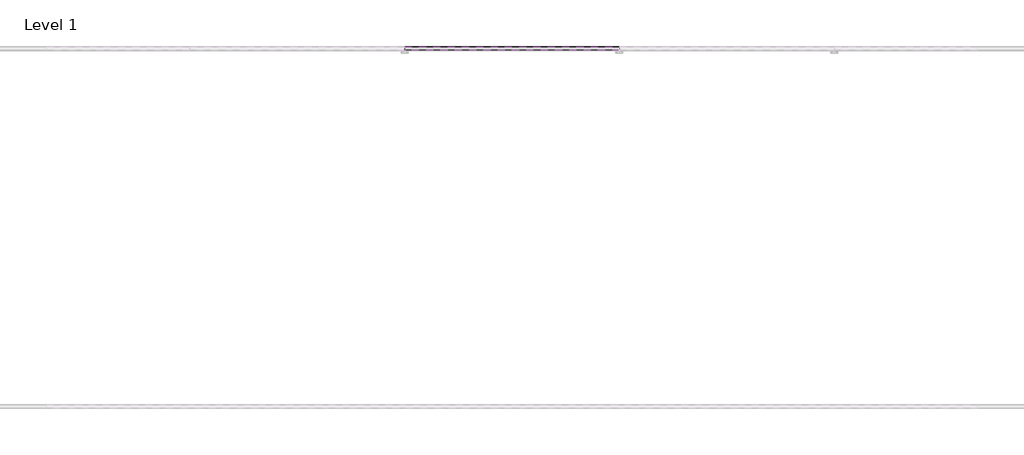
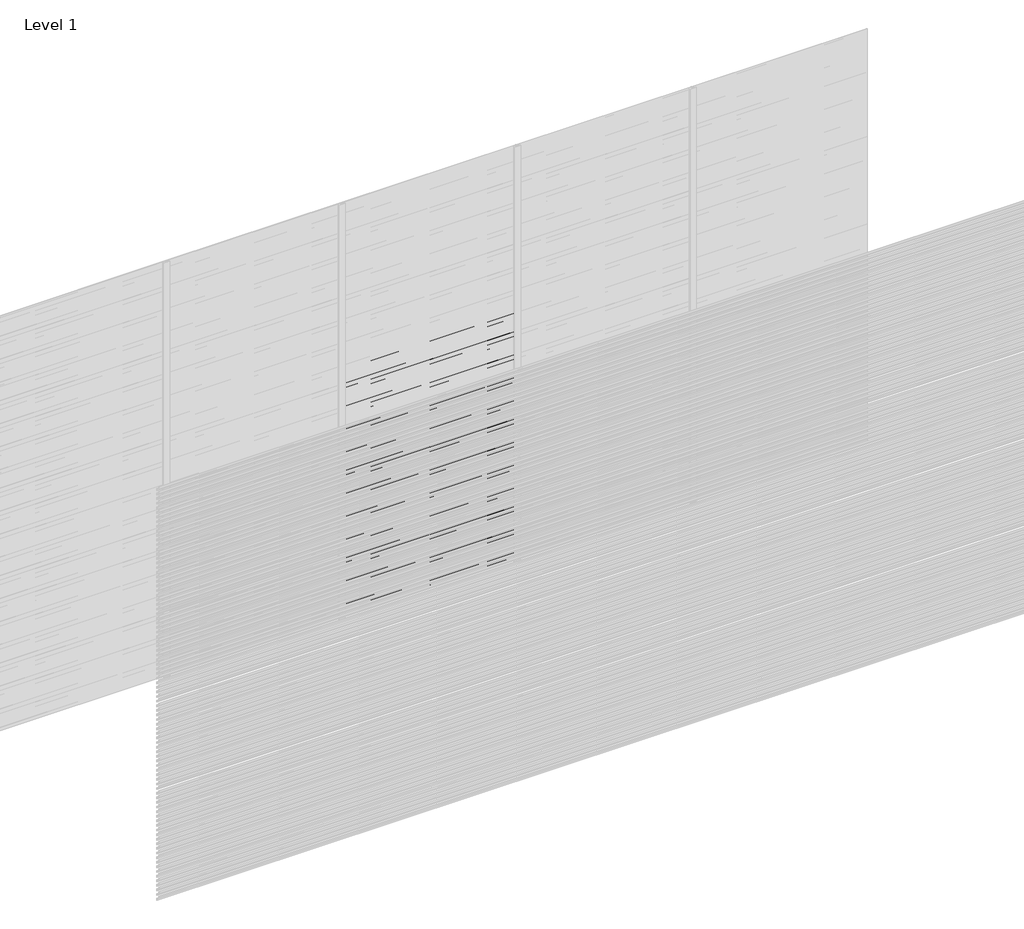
# One storey, part 57 of 507: 54 proxies.
"""IFC4 building model written with IfcOpenShell, lengths in millimetres."""

import ifcopenshell
import ifcopenshell.guid

model = None  # the IFC model being written
_history = None  # IfcOwnerHistory: only IFC2X3 demands one
_inside = {}  # id of a spatial element -> (the spatial element, [elements in it])
_under = {}  # id of a project, library or spatial element -> (it, [spatial elements below it])
_declared = {}  # id of a project -> (the project, [libraries it declares])
_typed = {}  # id of a type object -> (the type object, [elements of that type])
_made_of = {}  # id of a material, layer set ... -> (it, [elements and type objects made of it])


def new_model(schema):
    """Start an empty IFC model of exactly this schema.

    Asked for "IFC4X3", IfcOpenShell would pick the latest addendum, in which some entities
    have other attributes; the version numbers below select the first issue.
    IFC2X3 requires an IfcOwnerHistory on every rooted entity: one is made here for all.
    """
    global model, _history
    if schema == "IFC4X3":
        model = ifcopenshell.file(schema_version=(4, 3, 0, 0))
    else:
        model = ifcopenshell.file(schema=schema)
    _inside.clear()
    _under.clear()
    _declared.clear()
    _typed.clear()
    _made_of.clear()
    _history = None
    if model.schema == "IFC2X3":
        org = make("IfcOrganization", Name="unknown")
        user = make(
            "IfcPersonAndOrganization",
            ThePerson=make("IfcPerson", FamilyName="unknown"),
            TheOrganization=org,
        )
        app = make(
            "IfcApplication",
            ApplicationDeveloper=org,
            Version="unknown",
            ApplicationFullName="unknown",
            ApplicationIdentifier="unknown",
        )
        _history = make(
            "IfcOwnerHistory",
            OwningUser=user,
            OwningApplication=app,
            ChangeAction="ADDED",
            CreationDate=0,
        )
    return model


def make(cls, **values):
    """One entity of the class cls with the attributes given. An attribute that is None is left unset."""
    return model.create_entity(
        cls, **{name: value for name, value in values.items() if value is not None}
    )


def rooted(cls, **values):
    """An entity with a GlobalId (a new one), such as an element, a storey or a relation."""
    return make(cls, GlobalId=ifcopenshell.guid.new(), OwnerHistory=_history, **values)


def si_unit(unit_type, name, prefix=None):
    """IfcSIUnit, for example si_unit("LENGTHUNIT", "METRE", prefix="MILLI")."""
    return make("IfcSIUnit", UnitType=unit_type, Prefix=prefix, Name=name)


def assignment(units):
    """IfcUnitAssignment: the units of a project."""
    return None if units is None else make("IfcUnitAssignment", Units=units)


def point(xyz):
    """IfcCartesianPoint."""
    return None if xyz is None else make("IfcCartesianPoint", Coordinates=xyz)


def direction(xyz):
    """IfcDirection."""
    return None if xyz is None else make("IfcDirection", DirectionRatios=xyz)


def frame(location, z_axis=None, x_axis=None):
    """IfcAxis2Placement3D, a coordinate frame: its origin and axes. An axis left out is left unset."""
    return make(
        "IfcAxis2Placement3D",
        Location=point(location),
        Axis=direction(z_axis),
        RefDirection=direction(x_axis),
    )


def origin():
    """The frame at (0, 0, 0) with its axes left unset."""
    return frame((0.0, 0.0, 0.0))


def place(relative_to, where):
    """IfcLocalPlacement: puts the frame where relative to a parent placement (None: the world)."""
    return make(
        "IfcLocalPlacement", PlacementRelTo=relative_to, RelativePlacement=where
    )


def context(
    kind, dimensions, precision=None, world=None, true_north=None, identifier=None
):
    """IfcGeometricRepresentationContext, for example the 3D "Model" context."""
    return make(
        "IfcGeometricRepresentationContext",
        ContextIdentifier=identifier,
        ContextType=kind,
        CoordinateSpaceDimension=dimensions,
        Precision=precision,
        WorldCoordinateSystem=world,
        TrueNorth=true_north,
    )


def project(units=None, contexts=None):
    """IfcProject with its units and contexts."""
    return rooted(
        "IfcProject",
        Name="project",
        RepresentationContexts=contexts,
        UnitsInContext=assignment(units),
    )


def spatial(cls, under=None, at=None, **own):
    """A site, building, storey or space (cls), placed at a placement, below another one or the project."""
    s = rooted(cls, ObjectPlacement=at, **own)
    if under is not None:
        _under.setdefault(under.id(), (under, []))[1].append(s)
    return s


def polyline(points):
    """IfcPolyline through the points."""
    return make("IfcPolyline", Points=[point(p) for p in points])


def outline(outer, holes=None, kind="AREA"):
    """IfcArbitraryClosedProfileDef: a profile drawn as a closed curve; with holes, ...WithVoids."""
    if holes is None:
        return make("IfcArbitraryClosedProfileDef", ProfileType=kind, OuterCurve=outer)
    return make(
        "IfcArbitraryProfileDefWithVoids",
        ProfileType=kind,
        OuterCurve=outer,
        InnerCurves=holes,
    )


def extrude(swept, where, along, depth):
    """IfcExtrudedAreaSolid: the profile swept, set in the frame where, extruded along a direction by depth."""
    return make(
        "IfcExtrudedAreaSolid",
        SweptArea=swept,
        Position=where,
        ExtrudedDirection=direction(along),
        Depth=depth,
    )


def shape(context_of_items, identifier, shape_type, items):
    """IfcShapeRepresentation: the items that make up one representation, for example the "Body"."""
    return make(
        "IfcShapeRepresentation",
        ContextOfItems=context_of_items,
        RepresentationIdentifier=identifier,
        RepresentationType=shape_type,
        Items=items,
    )


def made_of(thing, what):
    """Note that an element or type object is made of a material, layer set ...; save() writes the relation."""
    if what is not None:
        _made_of.setdefault(what.id(), (what, []))[1].append(thing)
    return thing


def element(
    cls,
    number,
    at=None,
    inside=None,
    cuts=None,
    type_object=None,
    material=None,
    context=None,
    identifier="Body",
    shape_type=None,
    held_by="IfcProductDefinitionShape",
    body=None,
    shapes=None,
    **own,
):
    """One element of the class cls, such as IfcWall. Its Tag is "e" and its number.

    at: its placement. inside: the storey or other place that contains it. cuts: it is an
    opening in that element (IfcRelVoidsElement). A single representation is given by context,
    identifier, shape_type and body (its items); several are given by shapes. held_by: the class
    of the entity that holds the representations. save() writes the other relations.
    """
    e = rooted(cls, Tag="e%d" % number, ObjectPlacement=at, **own)
    if body is not None:
        shapes = [shape(context, identifier, shape_type, body)]
    if shapes is not None:
        e.Representation = make(held_by, Representations=shapes)
    if inside is not None:
        _inside.setdefault(inside.id(), (inside, []))[1].append(e)
    if cuts is not None:
        rooted(
            "IfcRelVoidsElement", RelatingBuildingElement=cuts, RelatedOpeningElement=e
        )
    if type_object is not None:
        _typed.setdefault(type_object.id(), (type_object, []))[1].append(e)
    return made_of(e, material)


def aggregate(whole, parts):
    """IfcRelAggregates: a whole, such as a stair, and the parts it consists of."""
    return rooted("IfcRelAggregates", RelatingObject=whole, RelatedObjects=parts)


def save(model, path):
    """Write the relations noted so far, then the file.

    IfcRelAggregates (storeys below a building ...), IfcRelContainedInSpatialStructure (elements
    in a storey), IfcRelDefinesByType, IfcRelAssociatesMaterial and IfcRelDeclares: one each for
    every whole, place, type object, material and project.
    """
    for whole, parts in _under.values():
        aggregate(whole, parts)
    for where, things in _inside.values():
        rooted(
            "IfcRelContainedInSpatialStructure",
            RelatedElements=things,
            RelatingStructure=where,
        )
    for kind, things in _typed.values():
        rooted("IfcRelDefinesByType", RelatedObjects=things, RelatingType=kind)
    for what, things in _made_of.values():
        rooted("IfcRelAssociatesMaterial", RelatedObjects=things, RelatingMaterial=what)
    for by, libraries in _declared.values():
        rooted("IfcRelDeclares", RelatingContext=by, RelatedDefinitions=libraries)
    model.write(path)


model = new_model("IFC4")

# Units and contexts
model_context = context("Model", 3, world=origin())
ifc_project = project(units=[si_unit("LENGTHUNIT", "METRE", prefix="MILLI")], contexts=[model_context])

# Site, building, storey
site = spatial("IfcSite", under=ifc_project)
building = spatial("IfcBuilding", under=site)
storey = spatial("IfcBuildingStorey", under=building, Name="Level 1", Elevation=0.0)

# Proxies
placement = place(None, origin())
element("IfcBuildingElementProxy", 1, Name="Wall Sweeps", at=placement, inside=storey, context=model_context, shape_type="SweptSolid", body=[
    extrude(outline(polyline([(44003.4540136, 1774.2), (44003.4540136, 1760.7), (44002.2040136, 1761.4216933), (44002.2040136, 1773.4782281), (43983.0540136, 1784.5345698), (43983.0540136, 1798.2), (43984.3040136, 1798.2), (43984.3040136, 1785.2562577), (44003.4540136, 1774.2)])), frame((47366.6208097, 0.0, 0.0), z_axis=(1.0, 0.0, 0.0), x_axis=(0.0, 1.0, 0.0)), (0.0, 0.0, 1.0), 1199.9999999),
])
element("IfcBuildingElementProxy", 2, Name="Wall Sweeps", at=placement, inside=storey, context=model_context, shape_type="SweptSolid", body=[
    extrude(outline(polyline([(44003.4540136, 1740.9), (44003.4540136, 1727.4), (44002.2040136, 1728.1216933), (44002.2040136, 1740.1782281), (43983.0540136, 1751.2345698), (43983.0540136, 1764.9), (43984.3040136, 1764.9), (43984.3040136, 1751.9562577), (44003.4540136, 1740.9)])), frame((47366.6208097, 0.0, 0.0), z_axis=(1.0, 0.0, 0.0), x_axis=(0.0, 1.0, 0.0)), (0.0, 0.0, 1.0), 1199.9999999),
])
element("IfcBuildingElementProxy", 3, Name="Wall Sweeps", at=placement, inside=storey, context=model_context, shape_type="SweptSolid", body=[
    extrude(outline(polyline([(44003.4540136, 1707.6), (44003.4540136, 1694.1), (44002.2040136, 1694.8216933), (44002.2040136, 1706.8782281), (43983.0540136, 1717.9345698), (43983.0540136, 1731.6), (43984.3040136, 1731.6), (43984.3040136, 1718.6562577), (44003.4540136, 1707.6)])), frame((47366.6208097, 0.0, 0.0), z_axis=(1.0, 0.0, 0.0), x_axis=(0.0, 1.0, 0.0)), (0.0, 0.0, 1.0), 1199.9999999),
])
element("IfcBuildingElementProxy", 4, Name="Wall Sweeps", at=placement, inside=storey, context=model_context, shape_type="SweptSolid", body=[
    extrude(outline(polyline([(44003.4540136, 1674.3), (44003.4540136, 1660.8), (44002.2040136, 1661.5216933), (44002.2040136, 1673.5782281), (43983.0540136, 1684.6345698), (43983.0540136, 1698.3), (43984.3040136, 1698.3), (43984.3040136, 1685.3562577), (44003.4540136, 1674.3)])), frame((47366.6208097, 0.0, 0.0), z_axis=(1.0, 0.0, 0.0), x_axis=(0.0, 1.0, 0.0)), (0.0, 0.0, 1.0), 1199.9999999),
])
element("IfcBuildingElementProxy", 5, Name="Wall Sweeps", at=placement, inside=storey, context=model_context, shape_type="SweptSolid", body=[
    extrude(outline(polyline([(44003.4540136, 1641.0), (44003.4540136, 1627.5), (44002.2040136, 1628.2216933), (44002.2040136, 1640.2782281), (43983.0540136, 1651.3345698), (43983.0540136, 1665.0), (43984.3040136, 1665.0), (43984.3040136, 1652.0562577), (44003.4540136, 1641.0)])), frame((47366.6208097, 0.0, 0.0), z_axis=(1.0, 0.0, 0.0), x_axis=(0.0, 1.0, 0.0)), (0.0, 0.0, 1.0), 1199.9999999),
])
element("IfcBuildingElementProxy", 6, Name="Wall Sweeps", at=placement, inside=storey, context=model_context, shape_type="SweptSolid", body=[
    extrude(outline(polyline([(44003.4540136, 1607.7), (44003.4540136, 1594.2), (44002.2040136, 1594.9216933), (44002.2040136, 1606.9782281), (43983.0540136, 1618.0345698), (43983.0540136, 1631.7), (43984.3040136, 1631.7), (43984.3040136, 1618.7562577), (44003.4540136, 1607.7)])), frame((47366.6208097, 0.0, 0.0), z_axis=(1.0, 0.0, 0.0), x_axis=(0.0, 1.0, 0.0)), (0.0, 0.0, 1.0), 1199.9999999),
])
element("IfcBuildingElementProxy", 7, Name="Wall Sweeps", at=placement, inside=storey, context=model_context, shape_type="SweptSolid", body=[
    extrude(outline(polyline([(44003.4540136, 1574.4), (44003.4540136, 1560.9), (44002.2040136, 1561.6216933), (44002.2040136, 1573.6782281), (43983.0540136, 1584.7345698), (43983.0540136, 1598.4), (43984.3040136, 1598.4), (43984.3040136, 1585.4562577), (44003.4540136, 1574.4)])), frame((47366.6208097, 0.0, 0.0), z_axis=(1.0, 0.0, 0.0), x_axis=(0.0, 1.0, 0.0)), (0.0, 0.0, 1.0), 1199.9999999),
])
element("IfcBuildingElementProxy", 8, Name="Wall Sweeps", at=placement, inside=storey, context=model_context, shape_type="SweptSolid", body=[
    extrude(outline(polyline([(44003.4540136, 1541.1), (44003.4540136, 1527.6), (44002.2040136, 1528.3216933), (44002.2040136, 1540.3782281), (43983.0540136, 1551.4345698), (43983.0540136, 1565.1), (43984.3040136, 1565.1), (43984.3040136, 1552.1562577), (44003.4540136, 1541.1)])), frame((47366.6208097, 0.0, 0.0), z_axis=(1.0, 0.0, 0.0), x_axis=(0.0, 1.0, 0.0)), (0.0, 0.0, 1.0), 1199.9999999),
])
element("IfcBuildingElementProxy", 9, Name="Wall Sweeps", at=placement, inside=storey, context=model_context, shape_type="SweptSolid", body=[
    extrude(outline(polyline([(44003.4540136, 1507.8), (44003.4540136, 1494.3), (44002.2040136, 1495.0216933), (44002.2040136, 1507.0782281), (43983.0540136, 1518.1345698), (43983.0540136, 1531.8), (43984.3040136, 1531.8), (43984.3040136, 1518.8562577), (44003.4540136, 1507.8)])), frame((47366.6208097, 0.0, 0.0), z_axis=(1.0, 0.0, 0.0), x_axis=(0.0, 1.0, 0.0)), (0.0, 0.0, 1.0), 1199.9999999),
])
element("IfcBuildingElementProxy", 10, Name="Wall Sweeps", at=placement, inside=storey, context=model_context, shape_type="SweptSolid", body=[
    extrude(outline(polyline([(44003.4540136, 1474.5), (44003.4540136, 1461.0), (44002.2040136, 1461.7216933), (44002.2040136, 1473.7782281), (43983.0540136, 1484.8345698), (43983.0540136, 1498.5), (43984.3040136, 1498.5), (43984.3040136, 1485.5562577), (44003.4540136, 1474.5)])), frame((47366.6208097, 0.0, 0.0), z_axis=(1.0, 0.0, 0.0), x_axis=(0.0, 1.0, 0.0)), (0.0, 0.0, 1.0), 1199.9999999),
])
element("IfcBuildingElementProxy", 11, Name="Wall Sweeps", at=placement, inside=storey, context=model_context, shape_type="SweptSolid", body=[
    extrude(outline(polyline([(44003.4540136, 1441.2), (44003.4540136, 1427.7), (44002.2040136, 1428.4216933), (44002.2040136, 1440.4782281), (43983.0540136, 1451.5345698), (43983.0540136, 1465.2), (43984.3040136, 1465.2), (43984.3040136, 1452.2562577), (44003.4540136, 1441.2)])), frame((47366.6208097, 0.0, 0.0), z_axis=(1.0, 0.0, 0.0), x_axis=(0.0, 1.0, 0.0)), (0.0, 0.0, 1.0), 1199.9999999),
])
element("IfcBuildingElementProxy", 12, Name="Wall Sweeps", at=placement, inside=storey, context=model_context, shape_type="SweptSolid", body=[
    extrude(outline(polyline([(44003.4540136, 1407.9), (44003.4540136, 1394.4), (44002.2040136, 1395.1216933), (44002.2040136, 1407.1782281), (43983.0540136, 1418.2345698), (43983.0540136, 1431.9), (43984.3040136, 1431.9), (43984.3040136, 1418.9562577), (44003.4540136, 1407.9)])), frame((47366.6208097, 0.0, 0.0), z_axis=(1.0, 0.0, 0.0), x_axis=(0.0, 1.0, 0.0)), (0.0, 0.0, 1.0), 1199.9999999),
])
element("IfcBuildingElementProxy", 13, Name="Wall Sweeps", at=placement, inside=storey, context=model_context, shape_type="SweptSolid", body=[
    extrude(outline(polyline([(44003.4540136, 1374.6), (44003.4540136, 1361.1), (44002.2040136, 1361.8216933), (44002.2040136, 1373.8782281), (43983.0540136, 1384.9345698), (43983.0540136, 1398.6), (43984.3040136, 1398.6), (43984.3040136, 1385.6562577), (44003.4540136, 1374.6)])), frame((47366.6208097, 0.0, 0.0), z_axis=(1.0, 0.0, 0.0), x_axis=(0.0, 1.0, 0.0)), (0.0, 0.0, 1.0), 1199.9999999),
])
element("IfcBuildingElementProxy", 14, Name="Wall Sweeps", at=placement, inside=storey, context=model_context, shape_type="SweptSolid", body=[
    extrude(outline(polyline([(44003.4540136, 1341.3), (44003.4540136, 1327.8), (44002.2040136, 1328.5216933), (44002.2040136, 1340.5782281), (43983.0540136, 1351.6345698), (43983.0540136, 1365.3), (43984.3040136, 1365.3), (43984.3040136, 1352.3562577), (44003.4540136, 1341.3)])), frame((47366.6208097, 0.0, 0.0), z_axis=(1.0, 0.0, 0.0), x_axis=(0.0, 1.0, 0.0)), (0.0, 0.0, 1.0), 1199.9999999),
])
element("IfcBuildingElementProxy", 15, Name="Wall Sweeps", at=placement, inside=storey, context=model_context, shape_type="SweptSolid", body=[
    extrude(outline(polyline([(44003.4540136, 1308.0), (44003.4540136, 1294.5), (44002.2040136, 1295.2216933), (44002.2040136, 1307.2782281), (43983.0540136, 1318.3345698), (43983.0540136, 1332.0), (43984.3040136, 1332.0), (43984.3040136, 1319.0562577), (44003.4540136, 1308.0)])), frame((47366.6208097, 0.0, 0.0), z_axis=(1.0, 0.0, 0.0), x_axis=(0.0, 1.0, 0.0)), (0.0, 0.0, 1.0), 1199.9999999),
])
element("IfcBuildingElementProxy", 16, Name="Wall Sweeps", at=placement, inside=storey, context=model_context, shape_type="SweptSolid", body=[
    extrude(outline(polyline([(44003.4540136, 1274.7), (44003.4540136, 1261.2), (44002.2040136, 1261.9216933), (44002.2040136, 1273.9782281), (43983.0540136, 1285.0345698), (43983.0540136, 1298.7), (43984.3040136, 1298.7), (43984.3040136, 1285.7562577), (44003.4540136, 1274.7)])), frame((47366.6208097, 0.0, 0.0), z_axis=(1.0, 0.0, 0.0), x_axis=(0.0, 1.0, 0.0)), (0.0, 0.0, 1.0), 1199.9999999),
])
element("IfcBuildingElementProxy", 17, Name="Wall Sweeps", at=placement, inside=storey, context=model_context, shape_type="SweptSolid", body=[
    extrude(outline(polyline([(44003.4540136, 1241.4), (44003.4540136, 1227.9), (44002.2040136, 1228.6216933), (44002.2040136, 1240.6782281), (43983.0540136, 1251.7345698), (43983.0540136, 1265.4), (43984.3040136, 1265.4), (43984.3040136, 1252.4562577), (44003.4540136, 1241.4)])), frame((47366.6208097, 0.0, 0.0), z_axis=(1.0, 0.0, 0.0), x_axis=(0.0, 1.0, 0.0)), (0.0, 0.0, 1.0), 1199.9999999),
])
element("IfcBuildingElementProxy", 18, Name="Wall Sweeps", at=placement, inside=storey, context=model_context, shape_type="SweptSolid", body=[
    extrude(outline(polyline([(44003.4540136, 1208.1), (44003.4540136, 1194.6), (44002.2040136, 1195.3216933), (44002.2040136, 1207.3782281), (43983.0540136, 1218.4345698), (43983.0540136, 1232.1), (43984.3040136, 1232.1), (43984.3040136, 1219.1562577), (44003.4540136, 1208.1)])), frame((47366.6208097, 0.0, 0.0), z_axis=(1.0, 0.0, 0.0), x_axis=(0.0, 1.0, 0.0)), (0.0, 0.0, 1.0), 1199.9999999),
])
element("IfcBuildingElementProxy", 19, Name="Wall Sweeps", at=placement, inside=storey, context=model_context, shape_type="SweptSolid", body=[
    extrude(outline(polyline([(44003.4540136, 1174.8), (44003.4540136, 1161.3), (44002.2040136, 1162.0216933), (44002.2040136, 1174.0782281), (43983.0540136, 1185.1345698), (43983.0540136, 1198.8), (43984.3040136, 1198.8), (43984.3040136, 1185.8562577), (44003.4540136, 1174.8)])), frame((47366.6208097, 0.0, 0.0), z_axis=(1.0, 0.0, 0.0), x_axis=(0.0, 1.0, 0.0)), (0.0, 0.0, 1.0), 1199.9999999),
])
element("IfcBuildingElementProxy", 20, Name="Wall Sweeps", at=placement, inside=storey, context=model_context, shape_type="SweptSolid", body=[
    extrude(outline(polyline([(44003.4540136, 1141.5), (44003.4540136, 1128.0), (44002.2040136, 1128.7216933), (44002.2040136, 1140.7782281), (43983.0540136, 1151.8345698), (43983.0540136, 1165.5), (43984.3040136, 1165.5), (43984.3040136, 1152.5562577), (44003.4540136, 1141.5)])), frame((47366.6208097, 0.0, 0.0), z_axis=(1.0, 0.0, 0.0), x_axis=(0.0, 1.0, 0.0)), (0.0, 0.0, 1.0), 1199.9999999),
])
element("IfcBuildingElementProxy", 21, Name="Wall Sweeps", at=placement, inside=storey, context=model_context, shape_type="SweptSolid", body=[
    extrude(outline(polyline([(44003.4540136, 1108.2), (44003.4540136, 1094.7), (44002.2040136, 1095.4216933), (44002.2040136, 1107.4782281), (43983.0540136, 1118.5345698), (43983.0540136, 1132.2), (43984.3040136, 1132.2), (43984.3040136, 1119.2562577), (44003.4540136, 1108.2)])), frame((47366.6208097, 0.0, 0.0), z_axis=(1.0, 0.0, 0.0), x_axis=(0.0, 1.0, 0.0)), (0.0, 0.0, 1.0), 1199.9999999),
])
element("IfcBuildingElementProxy", 22, Name="Wall Sweeps", at=placement, inside=storey, context=model_context, shape_type="SweptSolid", body=[
    extrude(outline(polyline([(44003.4540136, 1074.9), (44003.4540136, 1061.4), (44002.2040136, 1062.1216933), (44002.2040136, 1074.1782281), (43983.0540136, 1085.2345698), (43983.0540136, 1098.9), (43984.3040136, 1098.9), (43984.3040136, 1085.9562577), (44003.4540136, 1074.9)])), frame((47366.6208097, 0.0, 0.0), z_axis=(1.0, 0.0, 0.0), x_axis=(0.0, 1.0, 0.0)), (0.0, 0.0, 1.0), 1199.9999999),
])
element("IfcBuildingElementProxy", 23, Name="Wall Sweeps", at=placement, inside=storey, context=model_context, shape_type="SweptSolid", body=[
    extrude(outline(polyline([(44003.4540136, 1041.6), (44003.4540136, 1028.1), (44002.2040136, 1028.8216933), (44002.2040136, 1040.8782281), (43983.0540136, 1051.9345698), (43983.0540136, 1065.6), (43984.3040136, 1065.6), (43984.3040136, 1052.6562577), (44003.4540136, 1041.6)])), frame((47366.6208097, 0.0, 0.0), z_axis=(1.0, 0.0, 0.0), x_axis=(0.0, 1.0, 0.0)), (0.0, 0.0, 1.0), 1199.9999999),
])
element("IfcBuildingElementProxy", 24, Name="Wall Sweeps", at=placement, inside=storey, context=model_context, shape_type="SweptSolid", body=[
    extrude(outline(polyline([(44003.4540136, 1008.3), (44003.4540136, 994.8), (44002.2040136, 995.5216933), (44002.2040136, 1007.5782281), (43983.0540136, 1018.6345698), (43983.0540136, 1032.3), (43984.3040136, 1032.3), (43984.3040136, 1019.3562577), (44003.4540136, 1008.3)])), frame((47366.6208097, 0.0, 0.0), z_axis=(1.0, 0.0, 0.0), x_axis=(0.0, 1.0, 0.0)), (0.0, 0.0, 1.0), 1199.9999999),
])
element("IfcBuildingElementProxy", 25, Name="Wall Sweeps", at=placement, inside=storey, context=model_context, shape_type="SweptSolid", body=[
    extrude(outline(polyline([(44003.4540136, 975.0), (44003.4540136, 961.5), (44002.2040136, 962.2216933), (44002.2040136, 974.2782281), (43983.0540136, 985.3345698), (43983.0540136, 999.0), (43984.3040136, 999.0), (43984.3040136, 986.0562577), (44003.4540136, 975.0)])), frame((47366.6208097, 0.0, 0.0), z_axis=(1.0, 0.0, 0.0), x_axis=(0.0, 1.0, 0.0)), (0.0, 0.0, 1.0), 1199.9999999),
])
element("IfcBuildingElementProxy", 26, Name="Wall Sweeps", at=placement, inside=storey, context=model_context, shape_type="SweptSolid", body=[
    extrude(outline(polyline([(44003.4540136, 941.7), (44003.4540136, 928.2), (44002.2040136, 928.9216933), (44002.2040136, 940.9782281), (43983.0540136, 952.0345698), (43983.0540136, 965.7), (43984.3040136, 965.7), (43984.3040136, 952.7562577), (44003.4540136, 941.7)])), frame((47366.6208097, 0.0, 0.0), z_axis=(1.0, 0.0, 0.0), x_axis=(0.0, 1.0, 0.0)), (0.0, 0.0, 1.0), 1199.9999999),
])
element("IfcBuildingElementProxy", 27, Name="Wall Sweeps", at=placement, inside=storey, context=model_context, shape_type="SweptSolid", body=[
    extrude(outline(polyline([(44003.4540136, 908.4), (44003.4540136, 894.9), (44002.2040136, 895.6216933), (44002.2040136, 907.6782281), (43983.0540136, 918.7345698), (43983.0540136, 932.4), (43984.3040136, 932.4), (43984.3040136, 919.4562577), (44003.4540136, 908.4)])), frame((47366.6208097, 0.0, 0.0), z_axis=(1.0, 0.0, 0.0), x_axis=(0.0, 1.0, 0.0)), (0.0, 0.0, 1.0), 1199.9999999),
])
element("IfcBuildingElementProxy", 28, Name="Wall Sweeps", at=placement, inside=storey, context=model_context, shape_type="SweptSolid", body=[
    extrude(outline(polyline([(44003.4540136, 875.1), (44003.4540136, 861.6), (44002.2040136, 862.3216933), (44002.2040136, 874.3782281), (43983.0540136, 885.4345698), (43983.0540136, 899.1), (43984.3040136, 899.1), (43984.3040136, 886.1562577), (44003.4540136, 875.1)])), frame((47366.6208097, 0.0, 0.0), z_axis=(1.0, 0.0, 0.0), x_axis=(0.0, 1.0, 0.0)), (0.0, 0.0, 1.0), 1199.9999999),
])
element("IfcBuildingElementProxy", 29, Name="Wall Sweeps", at=placement, inside=storey, context=model_context, shape_type="SweptSolid", body=[
    extrude(outline(polyline([(44003.4540136, 841.8), (44003.4540136, 828.3), (44002.2040136, 829.0216933), (44002.2040136, 841.0782281), (43983.0540136, 852.1345698), (43983.0540136, 865.8), (43984.3040136, 865.8), (43984.3040136, 852.8562577), (44003.4540136, 841.8)])), frame((47366.6208097, 0.0, 0.0), z_axis=(1.0, 0.0, 0.0), x_axis=(0.0, 1.0, 0.0)), (0.0, 0.0, 1.0), 1199.9999999),
])
element("IfcBuildingElementProxy", 30, Name="Wall Sweeps", at=placement, inside=storey, context=model_context, shape_type="SweptSolid", body=[
    extrude(outline(polyline([(44003.4540136, 808.5), (44003.4540136, 795.0), (44002.2040136, 795.7216933), (44002.2040136, 807.7782281), (43983.0540136, 818.8345698), (43983.0540136, 832.5), (43984.3040136, 832.5), (43984.3040136, 819.5562577), (44003.4540136, 808.5)])), frame((47366.6208097, 0.0, 0.0), z_axis=(1.0, 0.0, 0.0), x_axis=(0.0, 1.0, 0.0)), (0.0, 0.0, 1.0), 1199.9999999),
])
element("IfcBuildingElementProxy", 31, Name="Wall Sweeps", at=placement, inside=storey, context=model_context, shape_type="SweptSolid", body=[
    extrude(outline(polyline([(44003.4540136, 775.2), (44003.4540136, 761.7), (44002.2040136, 762.4216933), (44002.2040136, 774.4782281), (43983.0540136, 785.5345698), (43983.0540136, 799.2), (43984.3040136, 799.2), (43984.3040136, 786.2562577), (44003.4540136, 775.2)])), frame((47366.6208097, 0.0, 0.0), z_axis=(1.0, 0.0, 0.0), x_axis=(0.0, 1.0, 0.0)), (0.0, 0.0, 1.0), 1199.9999999),
])
element("IfcBuildingElementProxy", 32, Name="Wall Sweeps", at=placement, inside=storey, context=model_context, shape_type="SweptSolid", body=[
    extrude(outline(polyline([(44003.4540136, 741.9), (44003.4540136, 728.4), (44002.2040136, 729.1216933), (44002.2040136, 741.1782281), (43983.0540136, 752.2345698), (43983.0540136, 765.9), (43984.3040136, 765.9), (43984.3040136, 752.9562577), (44003.4540136, 741.9)])), frame((47366.6208097, 0.0, 0.0), z_axis=(1.0, 0.0, 0.0), x_axis=(0.0, 1.0, 0.0)), (0.0, 0.0, 1.0), 1199.9999999),
])
element("IfcBuildingElementProxy", 33, Name="Wall Sweeps", at=placement, inside=storey, context=model_context, shape_type="SweptSolid", body=[
    extrude(outline(polyline([(44003.4540136, 708.6), (44003.4540136, 695.1), (44002.2040136, 695.8216933), (44002.2040136, 707.8782281), (43983.0540136, 718.9345698), (43983.0540136, 732.6), (43984.3040136, 732.6), (43984.3040136, 719.6562577), (44003.4540136, 708.6)])), frame((47366.6208097, 0.0, 0.0), z_axis=(1.0, 0.0, 0.0), x_axis=(0.0, 1.0, 0.0)), (0.0, 0.0, 1.0), 1199.9999999),
])
element("IfcBuildingElementProxy", 34, Name="Wall Sweeps", at=placement, inside=storey, context=model_context, shape_type="SweptSolid", body=[
    extrude(outline(polyline([(44003.4540136, 675.3), (44003.4540136, 661.8), (44002.2040136, 662.5216933), (44002.2040136, 674.5782281), (43983.0540136, 685.6345698), (43983.0540136, 699.3), (43984.3040136, 699.3), (43984.3040136, 686.3562577), (44003.4540136, 675.3)])), frame((47366.6208097, 0.0, 0.0), z_axis=(1.0, 0.0, 0.0), x_axis=(0.0, 1.0, 0.0)), (0.0, 0.0, 1.0), 1199.9999999),
])
element("IfcBuildingElementProxy", 35, Name="Wall Sweeps", at=placement, inside=storey, context=model_context, shape_type="SweptSolid", body=[
    extrude(outline(polyline([(44003.4540136, 642.0), (44003.4540136, 628.5), (44002.2040136, 629.2216933), (44002.2040136, 641.2782281), (43983.0540136, 652.3345698), (43983.0540136, 666.0), (43984.3040136, 666.0), (43984.3040136, 653.0562577), (44003.4540136, 642.0)])), frame((47366.6208097, 0.0, 0.0), z_axis=(1.0, 0.0, 0.0), x_axis=(0.0, 1.0, 0.0)), (0.0, 0.0, 1.0), 1199.9999999),
])
element("IfcBuildingElementProxy", 36, Name="Wall Sweeps", at=placement, inside=storey, context=model_context, shape_type="SweptSolid", body=[
    extrude(outline(polyline([(44003.4540136, 608.7), (44003.4540136, 595.2), (44002.2040136, 595.9216933), (44002.2040136, 607.9782281), (43983.0540136, 619.0345698), (43983.0540136, 632.7), (43984.3040136, 632.7), (43984.3040136, 619.7562577), (44003.4540136, 608.7)])), frame((47366.6208097, 0.0, 0.0), z_axis=(1.0, 0.0, 0.0), x_axis=(0.0, 1.0, 0.0)), (0.0, 0.0, 1.0), 1199.9999999),
])
element("IfcBuildingElementProxy", 37, Name="Wall Sweeps", at=placement, inside=storey, context=model_context, shape_type="SweptSolid", body=[
    extrude(outline(polyline([(44003.4540136, 575.4), (44003.4540136, 561.9), (44002.2040136, 562.6216933), (44002.2040136, 574.6782281), (43983.0540136, 585.7345698), (43983.0540136, 599.4), (43984.3040136, 599.4), (43984.3040136, 586.4562577), (44003.4540136, 575.4)])), frame((47366.6208097, 0.0, 0.0), z_axis=(1.0, 0.0, 0.0), x_axis=(0.0, 1.0, 0.0)), (0.0, 0.0, 1.0), 1199.9999999),
])
element("IfcBuildingElementProxy", 38, Name="Wall Sweeps", at=placement, inside=storey, context=model_context, shape_type="SweptSolid", body=[
    extrude(outline(polyline([(44003.4540136, 542.1), (44003.4540136, 528.6), (44002.2040136, 529.3216933), (44002.2040136, 541.3782281), (43983.0540136, 552.4345698), (43983.0540136, 566.1), (43984.3040136, 566.1), (43984.3040136, 553.1562577), (44003.4540136, 542.1)])), frame((47366.6208097, 0.0, 0.0), z_axis=(1.0, 0.0, 0.0), x_axis=(0.0, 1.0, 0.0)), (0.0, 0.0, 1.0), 1199.9999999),
])
element("IfcBuildingElementProxy", 39, Name="Wall Sweeps", at=placement, inside=storey, context=model_context, shape_type="SweptSolid", body=[
    extrude(outline(polyline([(44003.4540136, 508.8), (44003.4540136, 495.3), (44002.2040136, 496.0216933), (44002.2040136, 508.0782281), (43983.0540136, 519.1345698), (43983.0540136, 532.8), (43984.3040136, 532.8), (43984.3040136, 519.8562577), (44003.4540136, 508.8)])), frame((47366.6208097, 0.0, 0.0), z_axis=(1.0, 0.0, 0.0), x_axis=(0.0, 1.0, 0.0)), (0.0, 0.0, 1.0), 1199.9999999),
])
element("IfcBuildingElementProxy", 40, Name="Wall Sweeps", at=placement, inside=storey, context=model_context, shape_type="SweptSolid", body=[
    extrude(outline(polyline([(44003.4540136, 475.5), (44003.4540136, 462.0), (44002.2040136, 462.7216933), (44002.2040136, 474.7782281), (43983.0540136, 485.8345698), (43983.0540136, 499.5), (43984.3040136, 499.5), (43984.3040136, 486.5562577), (44003.4540136, 475.5)])), frame((47366.6208097, 0.0, 0.0), z_axis=(1.0, 0.0, 0.0), x_axis=(0.0, 1.0, 0.0)), (0.0, 0.0, 1.0), 1199.9999999),
])
element("IfcBuildingElementProxy", 41, Name="Wall Sweeps", at=placement, inside=storey, context=model_context, shape_type="SweptSolid", body=[
    extrude(outline(polyline([(44003.4540136, 442.2), (44003.4540136, 428.7), (44002.2040136, 429.4216933), (44002.2040136, 441.4782281), (43983.0540136, 452.5345698), (43983.0540136, 466.2), (43984.3040136, 466.2), (43984.3040136, 453.2562577), (44003.4540136, 442.2)])), frame((47366.6208097, 0.0, 0.0), z_axis=(1.0, 0.0, 0.0), x_axis=(0.0, 1.0, 0.0)), (0.0, 0.0, 1.0), 1199.9999999),
])
element("IfcBuildingElementProxy", 42, Name="Wall Sweeps", at=placement, inside=storey, context=model_context, shape_type="SweptSolid", body=[
    extrude(outline(polyline([(44003.4540136, 408.9), (44003.4540136, 395.4), (44002.2040136, 396.1216933), (44002.2040136, 408.1782281), (43983.0540136, 419.2345698), (43983.0540136, 432.9), (43984.3040136, 432.9), (43984.3040136, 419.9562577), (44003.4540136, 408.9)])), frame((47366.6208097, 0.0, 0.0), z_axis=(1.0, 0.0, 0.0), x_axis=(0.0, 1.0, 0.0)), (0.0, 0.0, 1.0), 1199.9999999),
])
element("IfcBuildingElementProxy", 43, Name="Wall Sweeps", at=placement, inside=storey, context=model_context, shape_type="SweptSolid", body=[
    extrude(outline(polyline([(44003.4540136, 375.6), (44003.4540136, 362.1), (44002.2040136, 362.8216933), (44002.2040136, 374.8782281), (43983.0540136, 385.9345698), (43983.0540136, 399.6), (43984.3040136, 399.6), (43984.3040136, 386.6562577), (44003.4540136, 375.6)])), frame((47366.6208097, 0.0, 0.0), z_axis=(1.0, 0.0, 0.0), x_axis=(0.0, 1.0, 0.0)), (0.0, 0.0, 1.0), 1199.9999999),
])
element("IfcBuildingElementProxy", 44, Name="Wall Sweeps", at=placement, inside=storey, context=model_context, shape_type="SweptSolid", body=[
    extrude(outline(polyline([(44003.4540136, 342.3), (44003.4540136, 328.8), (44002.2040136, 329.5216933), (44002.2040136, 341.5782281), (43983.0540136, 352.6345698), (43983.0540136, 366.3), (43984.3040136, 366.3), (43984.3040136, 353.3562577), (44003.4540136, 342.3)])), frame((47366.6208097, 0.0, 0.0), z_axis=(1.0, 0.0, 0.0), x_axis=(0.0, 1.0, 0.0)), (0.0, 0.0, 1.0), 1199.9999999),
])
element("IfcBuildingElementProxy", 45, Name="Wall Sweeps", at=placement, inside=storey, context=model_context, shape_type="SweptSolid", body=[
    extrude(outline(polyline([(44003.4540136, 309.0), (44003.4540136, 295.5), (44002.2040136, 296.2216933), (44002.2040136, 308.2782281), (43983.0540136, 319.3345698), (43983.0540136, 333.0), (43984.3040136, 333.0), (43984.3040136, 320.0562577), (44003.4540136, 309.0)])), frame((47366.6208097, 0.0, 0.0), z_axis=(1.0, 0.0, 0.0), x_axis=(0.0, 1.0, 0.0)), (0.0, 0.0, 1.0), 1199.9999999),
])
element("IfcBuildingElementProxy", 46, Name="Wall Sweeps", at=placement, inside=storey, context=model_context, shape_type="SweptSolid", body=[
    extrude(outline(polyline([(44003.4540136, 275.7), (44003.4540136, 262.2), (44002.2040136, 262.9216933), (44002.2040136, 274.9782281), (43983.0540136, 286.0345698), (43983.0540136, 299.7), (43984.3040136, 299.7), (43984.3040136, 286.7562577), (44003.4540136, 275.7)])), frame((47366.6208097, 0.0, 0.0), z_axis=(1.0, 0.0, 0.0), x_axis=(0.0, 1.0, 0.0)), (0.0, 0.0, 1.0), 1199.9999999),
])
element("IfcBuildingElementProxy", 47, Name="Wall Sweeps", at=placement, inside=storey, context=model_context, shape_type="SweptSolid", body=[
    extrude(outline(polyline([(44003.4540136, 242.4), (44003.4540136, 228.9), (44002.2040136, 229.6216933), (44002.2040136, 241.6782281), (43983.0540136, 252.7345698), (43983.0540136, 266.4), (43984.3040136, 266.4), (43984.3040136, 253.4562577), (44003.4540136, 242.4)])), frame((47366.6208097, 0.0, 0.0), z_axis=(1.0, 0.0, 0.0), x_axis=(0.0, 1.0, 0.0)), (0.0, 0.0, 1.0), 1199.9999999),
])
element("IfcBuildingElementProxy", 48, Name="Wall Sweeps", at=placement, inside=storey, context=model_context, shape_type="SweptSolid", body=[
    extrude(outline(polyline([(44003.4540136, 209.1), (44003.4540136, 195.6), (44002.2040136, 196.3216933), (44002.2040136, 208.3782281), (43983.0540136, 219.4345698), (43983.0540136, 233.1), (43984.3040136, 233.1), (43984.3040136, 220.1562577), (44003.4540136, 209.1)])), frame((47366.6208097, 0.0, 0.0), z_axis=(1.0, 0.0, 0.0), x_axis=(0.0, 1.0, 0.0)), (0.0, 0.0, 1.0), 1199.9999999),
])
element("IfcBuildingElementProxy", 49, Name="Wall Sweeps", at=placement, inside=storey, context=model_context, shape_type="SweptSolid", body=[
    extrude(outline(polyline([(44003.4540136, 175.8), (44003.4540136, 162.3), (44002.2040136, 163.0216933), (44002.2040136, 175.0782281), (43983.0540136, 186.1345698), (43983.0540136, 199.8), (43984.3040136, 199.8), (43984.3040136, 186.8562577), (44003.4540136, 175.8)])), frame((47366.6208097, 0.0, 0.0), z_axis=(1.0, 0.0, 0.0), x_axis=(0.0, 1.0, 0.0)), (0.0, 0.0, 1.0), 1199.9999999),
])
element("IfcBuildingElementProxy", 50, Name="Wall Sweeps", at=placement, inside=storey, context=model_context, shape_type="SweptSolid", body=[
    extrude(outline(polyline([(44003.4540136, 142.5), (44003.4540136, 129.0), (44002.2040136, 129.7216933), (44002.2040136, 141.7782281), (43983.0540136, 152.8345698), (43983.0540136, 166.5), (43984.3040136, 166.5), (43984.3040136, 153.5562577), (44003.4540136, 142.5)])), frame((47366.6208097, 0.0, 0.0), z_axis=(1.0, 0.0, 0.0), x_axis=(0.0, 1.0, 0.0)), (0.0, 0.0, 1.0), 1199.9999999),
])
element("IfcBuildingElementProxy", 51, Name="Wall Sweeps", at=placement, inside=storey, context=model_context, shape_type="SweptSolid", body=[
    extrude(outline(polyline([(44003.4540136, 109.2), (44003.4540136, 95.7), (44002.2040136, 96.4216933), (44002.2040136, 108.4782281), (43983.0540136, 119.5345698), (43983.0540136, 133.2), (43984.3040136, 133.2), (43984.3040136, 120.2562577), (44003.4540136, 109.2)])), frame((47366.6208097, 0.0, 0.0), z_axis=(1.0, 0.0, 0.0), x_axis=(0.0, 1.0, 0.0)), (0.0, 0.0, 1.0), 1199.9999999),
])
element("IfcBuildingElementProxy", 52, Name="Wall Sweeps", at=placement, inside=storey, context=model_context, shape_type="SweptSolid", body=[
    extrude(outline(polyline([(44003.4540136, 75.9), (44003.4540136, 62.4), (44002.2040136, 63.1216933), (44002.2040136, 75.1782281), (43983.0540136, 86.2345698), (43983.0540136, 99.9), (43984.3040136, 99.9), (43984.3040136, 86.9562577), (44003.4540136, 75.9)])), frame((47366.6208097, 0.0, 0.0), z_axis=(1.0, 0.0, 0.0), x_axis=(0.0, 1.0, 0.0)), (0.0, 0.0, 1.0), 1199.9999999),
])
element("IfcBuildingElementProxy", 53, Name="Wall Sweeps", at=placement, inside=storey, context=model_context, shape_type="SweptSolid", body=[
    extrude(outline(polyline([(44003.4540136, 42.6), (44003.4540136, 29.1), (44002.2040136, 29.8216933), (44002.2040136, 41.8782281), (43983.0540136, 52.9345698), (43983.0540136, 66.6), (43984.3040136, 66.6), (43984.3040136, 53.6562577), (44003.4540136, 42.6)])), frame((47366.6208097, 0.0, 0.0), z_axis=(1.0, 0.0, 0.0), x_axis=(0.0, 1.0, 0.0)), (0.0, 0.0, 1.0), 1199.9999999),
])
element("IfcBuildingElementProxy", 54, Name="Wall Sweeps", at=placement, inside=storey, context=model_context, shape_type="SweptSolid", body=[
    extrude(outline(polyline([(44003.4540136, 9.3), (44003.4540136, -4.2), (44002.2040136, -3.4783067), (44002.2040136, 8.5782281), (43983.0540136, 19.6345698), (43983.0540136, 33.3), (43984.3040136, 33.3), (43984.3040136, 20.3562577), (44003.4540136, 9.3)])), frame((47366.6208097, 0.0, 0.0), z_axis=(1.0, 0.0, 0.0), x_axis=(0.0, 1.0, 0.0)), (0.0, 0.0, 1.0), 1199.9999999),
])

save(model, "model.ifc")
